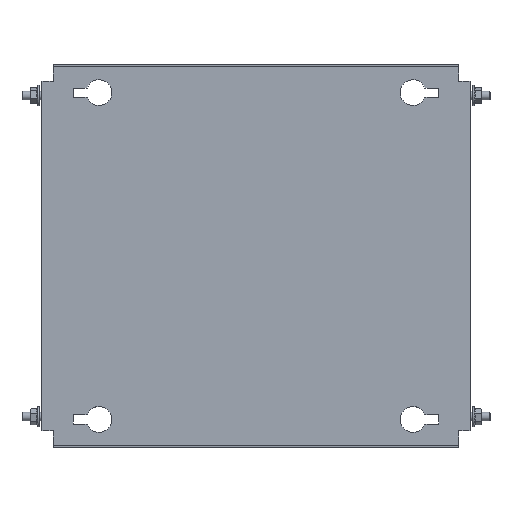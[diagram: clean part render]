
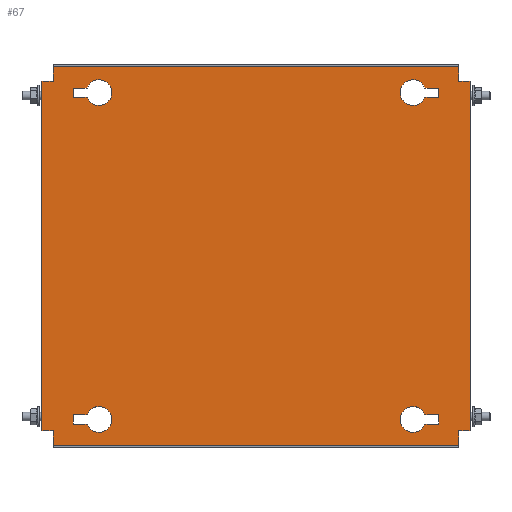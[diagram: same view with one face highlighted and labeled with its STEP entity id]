
A CAD part, top view. The second image highlights one B-rep face of the part: STEP entity #67.
In plain terms, the highlighted planar face has unit normal (0, 0, 1).
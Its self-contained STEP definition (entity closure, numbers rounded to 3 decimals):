
#67 = ADVANCED_FACE('',(#68,#103,#138,#300,#335),#370,.T.);
#68 = FACE_BOUND('',#69,.T.);
#69 = EDGE_LOOP('',(#70,#80,#88,#96));
#70 = ORIENTED_EDGE('',*,*,#71,.T.);
#71 = EDGE_CURVE('',#72,#74,#76,.T.);
#72 = VERTEX_POINT('',#73);
#73 = CARTESIAN_POINT('',(118.393,117.75,2.));
#74 = VERTEX_POINT('',#75);
#75 = CARTESIAN_POINT('',(128.,117.75,2.));
#76 = LINE('',#77,#78);
#77 = CARTESIAN_POINT('',(127.,117.75,2.));
#78 = VECTOR('',#79,1.);
#79 = DIRECTION('',(1.,0.,0.));
#80 = ORIENTED_EDGE('',*,*,#81,.T.);
#81 = EDGE_CURVE('',#74,#82,#84,.T.);
#82 = VERTEX_POINT('',#83);
#83 = CARTESIAN_POINT('',(128.,111.25,2.));
#84 = LINE('',#85,#86);
#85 = CARTESIAN_POINT('',(128.,117.75,2.));
#86 = VECTOR('',#87,1.);
#87 = DIRECTION('',(0.,-1.,0.));
#88 = ORIENTED_EDGE('',*,*,#89,.T.);
#89 = EDGE_CURVE('',#82,#90,#92,.T.);
#90 = VERTEX_POINT('',#91);
#91 = CARTESIAN_POINT('',(118.393,111.25,2.));
#92 = LINE('',#93,#94);
#93 = CARTESIAN_POINT('',(127.,111.25,2.));
#94 = VECTOR('',#95,1.);
#95 = DIRECTION('',(-1.,0.,0.));
#96 = ORIENTED_EDGE('',*,*,#97,.T.);
#97 = EDGE_CURVE('',#90,#72,#98,.T.);
#98 = CIRCLE('',#99,9.);
#99 = AXIS2_PLACEMENT_3D('',#100,#101,#102);
#100 = CARTESIAN_POINT('',(110.,114.5,2.));
#101 = DIRECTION('',(0.,0.,-1.));
#102 = DIRECTION('',(1.,0.,0.));
#103 = FACE_BOUND('',#104,.T.);
#104 = EDGE_LOOP('',(#105,#115,#123,#131));
#105 = ORIENTED_EDGE('',*,*,#106,.T.);
#106 = EDGE_CURVE('',#107,#109,#111,.T.);
#107 = VERTEX_POINT('',#108);
#108 = CARTESIAN_POINT('',(-118.393,-117.75,2.));
#109 = VERTEX_POINT('',#110);
#110 = CARTESIAN_POINT('',(-128.,-117.75,2.));
#111 = LINE('',#112,#113);
#112 = CARTESIAN_POINT('',(-127.,-117.75,2.));
#113 = VECTOR('',#114,1.);
#114 = DIRECTION('',(-1.,0.,0.));
#115 = ORIENTED_EDGE('',*,*,#116,.T.);
#116 = EDGE_CURVE('',#109,#117,#119,.T.);
#117 = VERTEX_POINT('',#118);
#118 = CARTESIAN_POINT('',(-128.,-111.25,2.));
#119 = LINE('',#120,#121);
#120 = CARTESIAN_POINT('',(-128.,-117.75,2.));
#121 = VECTOR('',#122,1.);
#122 = DIRECTION('',(0.,1.,0.));
#123 = ORIENTED_EDGE('',*,*,#124,.T.);
#124 = EDGE_CURVE('',#117,#125,#127,.T.);
#125 = VERTEX_POINT('',#126);
#126 = CARTESIAN_POINT('',(-118.393,-111.25,2.));
#127 = LINE('',#128,#129);
#128 = CARTESIAN_POINT('',(-127.,-111.25,2.));
#129 = VECTOR('',#130,1.);
#130 = DIRECTION('',(1.,-0.,-0.));
#131 = ORIENTED_EDGE('',*,*,#132,.T.);
#132 = EDGE_CURVE('',#125,#107,#133,.T.);
#133 = CIRCLE('',#134,9.);
#134 = AXIS2_PLACEMENT_3D('',#135,#136,#137);
#135 = CARTESIAN_POINT('',(-110.,-114.5,2.));
#136 = DIRECTION('',(0.,0.,-1.));
#137 = DIRECTION('',(-1.,0.,0.));
#138 = FACE_BOUND('',#139,.T.);
#139 = EDGE_LOOP('',(#140,#150,#158,#166,#174,#182,#190,#198,#206,#214,
    #222,#230,#238,#246,#254,#262,#270,#278,#286,#294));
#140 = ORIENTED_EDGE('',*,*,#141,.F.);
#141 = EDGE_CURVE('',#142,#144,#146,.T.);
#142 = VERTEX_POINT('',#143);
#143 = CARTESIAN_POINT('',(-147.4,122.5,2.));
#144 = VERTEX_POINT('',#145);
#145 = CARTESIAN_POINT('',(-142.,122.5,2.));
#146 = LINE('',#147,#148);
#147 = CARTESIAN_POINT('',(-148.,122.5,2.));
#148 = VECTOR('',#149,1.);
#149 = DIRECTION('',(1.,0.,-0.));
#150 = ORIENTED_EDGE('',*,*,#151,.T.);
#151 = EDGE_CURVE('',#142,#152,#154,.T.);
#152 = VERTEX_POINT('',#153);
#153 = CARTESIAN_POINT('',(-150.,122.5,2.));
#154 = LINE('',#155,#156);
#155 = CARTESIAN_POINT('',(-147.4,122.5,2.));
#156 = VECTOR('',#157,1.);
#157 = DIRECTION('',(-1.,0.,0.));
#158 = ORIENTED_EDGE('',*,*,#159,.F.);
#159 = EDGE_CURVE('',#160,#152,#162,.T.);
#160 = VERTEX_POINT('',#161);
#161 = CARTESIAN_POINT('',(-150.,-122.5,2.));
#162 = LINE('',#163,#164);
#163 = CARTESIAN_POINT('',(-150.,-132.5,2.));
#164 = VECTOR('',#165,1.);
#165 = DIRECTION('',(0.,1.,-0.));
#166 = ORIENTED_EDGE('',*,*,#167,.F.);
#167 = EDGE_CURVE('',#168,#160,#170,.T.);
#168 = VERTEX_POINT('',#169);
#169 = CARTESIAN_POINT('',(-147.4,-122.5,2.));
#170 = LINE('',#171,#172);
#171 = CARTESIAN_POINT('',(-142.,-122.5,2.));
#172 = VECTOR('',#173,1.);
#173 = DIRECTION('',(-1.,-0.,-0.));
#174 = ORIENTED_EDGE('',*,*,#175,.T.);
#175 = EDGE_CURVE('',#168,#176,#178,.T.);
#176 = VERTEX_POINT('',#177);
#177 = CARTESIAN_POINT('',(-142.,-122.5,2.));
#178 = LINE('',#179,#180);
#179 = CARTESIAN_POINT('',(-148.,-122.5,2.));
#180 = VECTOR('',#181,1.);
#181 = DIRECTION('',(1.,0.,-0.));
#182 = ORIENTED_EDGE('',*,*,#183,.T.);
#183 = EDGE_CURVE('',#176,#184,#186,.T.);
#184 = VERTEX_POINT('',#185);
#185 = CARTESIAN_POINT('',(-142.,-131.9,2.));
#186 = LINE('',#187,#188);
#187 = CARTESIAN_POINT('',(-142.,132.5,2.));
#188 = VECTOR('',#189,1.);
#189 = DIRECTION('',(0.,-1.,0.));
#190 = ORIENTED_EDGE('',*,*,#191,.T.);
#191 = EDGE_CURVE('',#184,#192,#194,.T.);
#192 = VERTEX_POINT('',#193);
#193 = CARTESIAN_POINT('',(-142.,-132.5,2.));
#194 = LINE('',#195,#196);
#195 = CARTESIAN_POINT('',(-142.,-131.9,2.));
#196 = VECTOR('',#197,1.);
#197 = DIRECTION('',(-0.,-1.,-0.));
#198 = ORIENTED_EDGE('',*,*,#199,.T.);
#199 = EDGE_CURVE('',#192,#200,#202,.T.);
#200 = VERTEX_POINT('',#201);
#201 = CARTESIAN_POINT('',(142.,-132.5,2.));
#202 = LINE('',#203,#204);
#203 = CARTESIAN_POINT('',(142.,-132.5,2.));
#204 = VECTOR('',#205,1.);
#205 = DIRECTION('',(1.,0.,0.));
#206 = ORIENTED_EDGE('',*,*,#207,.F.);
#207 = EDGE_CURVE('',#208,#200,#210,.T.);
#208 = VERTEX_POINT('',#209);
#209 = CARTESIAN_POINT('',(142.,-131.9,2.));
#210 = LINE('',#211,#212);
#211 = CARTESIAN_POINT('',(142.,-132.5,2.));
#212 = VECTOR('',#213,1.);
#213 = DIRECTION('',(0.,-1.,0.));
#214 = ORIENTED_EDGE('',*,*,#215,.T.);
#215 = EDGE_CURVE('',#208,#216,#218,.T.);
#216 = VERTEX_POINT('',#217);
#217 = CARTESIAN_POINT('',(142.,-122.5,2.));
#218 = LINE('',#219,#220);
#219 = CARTESIAN_POINT('',(142.,132.5,2.));
#220 = VECTOR('',#221,1.);
#221 = DIRECTION('',(0.,1.,-0.));
#222 = ORIENTED_EDGE('',*,*,#223,.F.);
#223 = EDGE_CURVE('',#224,#216,#226,.T.);
#224 = VERTEX_POINT('',#225);
#225 = CARTESIAN_POINT('',(147.4,-122.5,2.));
#226 = LINE('',#227,#228);
#227 = CARTESIAN_POINT('',(148.,-122.5,2.));
#228 = VECTOR('',#229,1.);
#229 = DIRECTION('',(-1.,0.,-0.));
#230 = ORIENTED_EDGE('',*,*,#231,.T.);
#231 = EDGE_CURVE('',#224,#232,#234,.T.);
#232 = VERTEX_POINT('',#233);
#233 = CARTESIAN_POINT('',(150.,-122.5,2.));
#234 = LINE('',#235,#236);
#235 = CARTESIAN_POINT('',(147.4,-122.5,2.));
#236 = VECTOR('',#237,1.);
#237 = DIRECTION('',(1.,0.,0.));
#238 = ORIENTED_EDGE('',*,*,#239,.F.);
#239 = EDGE_CURVE('',#240,#232,#242,.T.);
#240 = VERTEX_POINT('',#241);
#241 = CARTESIAN_POINT('',(150.,122.5,2.));
#242 = LINE('',#243,#244);
#243 = CARTESIAN_POINT('',(150.,-132.5,2.));
#244 = VECTOR('',#245,1.);
#245 = DIRECTION('',(0.,-1.,-0.));
#246 = ORIENTED_EDGE('',*,*,#247,.F.);
#247 = EDGE_CURVE('',#248,#240,#250,.T.);
#248 = VERTEX_POINT('',#249);
#249 = CARTESIAN_POINT('',(147.4,122.5,2.));
#250 = LINE('',#251,#252);
#251 = CARTESIAN_POINT('',(-142.,122.5,2.));
#252 = VECTOR('',#253,1.);
#253 = DIRECTION('',(1.,-0.,-0.));
#254 = ORIENTED_EDGE('',*,*,#255,.T.);
#255 = EDGE_CURVE('',#248,#256,#258,.T.);
#256 = VERTEX_POINT('',#257);
#257 = CARTESIAN_POINT('',(142.,122.5,2.));
#258 = LINE('',#259,#260);
#259 = CARTESIAN_POINT('',(148.,122.5,2.));
#260 = VECTOR('',#261,1.);
#261 = DIRECTION('',(-1.,0.,-0.));
#262 = ORIENTED_EDGE('',*,*,#263,.T.);
#263 = EDGE_CURVE('',#256,#264,#266,.T.);
#264 = VERTEX_POINT('',#265);
#265 = CARTESIAN_POINT('',(142.,131.9,2.));
#266 = LINE('',#267,#268);
#267 = CARTESIAN_POINT('',(142.,132.5,2.));
#268 = VECTOR('',#269,1.);
#269 = DIRECTION('',(0.,1.,-0.));
#270 = ORIENTED_EDGE('',*,*,#271,.T.);
#271 = EDGE_CURVE('',#264,#272,#274,.T.);
#272 = VERTEX_POINT('',#273);
#273 = CARTESIAN_POINT('',(142.,132.5,2.));
#274 = LINE('',#275,#276);
#275 = CARTESIAN_POINT('',(142.,131.9,2.));
#276 = VECTOR('',#277,1.);
#277 = DIRECTION('',(-0.,1.,-0.));
#278 = ORIENTED_EDGE('',*,*,#279,.T.);
#279 = EDGE_CURVE('',#272,#280,#282,.T.);
#280 = VERTEX_POINT('',#281);
#281 = CARTESIAN_POINT('',(-142.,132.5,2.));
#282 = LINE('',#283,#284);
#283 = CARTESIAN_POINT('',(-142.,132.5,2.));
#284 = VECTOR('',#285,1.);
#285 = DIRECTION('',(-1.,0.,0.));
#286 = ORIENTED_EDGE('',*,*,#287,.F.);
#287 = EDGE_CURVE('',#288,#280,#290,.T.);
#288 = VERTEX_POINT('',#289);
#289 = CARTESIAN_POINT('',(-142.,131.9,2.));
#290 = LINE('',#291,#292);
#291 = CARTESIAN_POINT('',(-142.,-132.5,2.));
#292 = VECTOR('',#293,1.);
#293 = DIRECTION('',(0.,1.,-0.));
#294 = ORIENTED_EDGE('',*,*,#295,.T.);
#295 = EDGE_CURVE('',#288,#144,#296,.T.);
#296 = LINE('',#297,#298);
#297 = CARTESIAN_POINT('',(-142.,132.5,2.));
#298 = VECTOR('',#299,1.);
#299 = DIRECTION('',(0.,-1.,0.));
#300 = FACE_BOUND('',#301,.T.);
#301 = EDGE_LOOP('',(#302,#312,#320,#328));
#302 = ORIENTED_EDGE('',*,*,#303,.F.);
#303 = EDGE_CURVE('',#304,#306,#308,.T.);
#304 = VERTEX_POINT('',#305);
#305 = CARTESIAN_POINT('',(128.,-111.25,2.));
#306 = VERTEX_POINT('',#307);
#307 = CARTESIAN_POINT('',(118.393,-111.25,2.));
#308 = LINE('',#309,#310);
#309 = CARTESIAN_POINT('',(118.393,-111.25,2.));
#310 = VECTOR('',#311,1.);
#311 = DIRECTION('',(-1.,0.,0.));
#312 = ORIENTED_EDGE('',*,*,#313,.F.);
#313 = EDGE_CURVE('',#314,#304,#316,.T.);
#314 = VERTEX_POINT('',#315);
#315 = CARTESIAN_POINT('',(128.,-117.75,2.));
#316 = LINE('',#317,#318);
#317 = CARTESIAN_POINT('',(128.,-111.25,2.));
#318 = VECTOR('',#319,1.);
#319 = DIRECTION('',(0.,1.,0.));
#320 = ORIENTED_EDGE('',*,*,#321,.F.);
#321 = EDGE_CURVE('',#322,#314,#324,.T.);
#322 = VERTEX_POINT('',#323);
#323 = CARTESIAN_POINT('',(118.393,-117.75,2.));
#324 = LINE('',#325,#326);
#325 = CARTESIAN_POINT('',(127.,-117.75,2.));
#326 = VECTOR('',#327,1.);
#327 = DIRECTION('',(1.,0.,0.));
#328 = ORIENTED_EDGE('',*,*,#329,.F.);
#329 = EDGE_CURVE('',#306,#322,#330,.T.);
#330 = CIRCLE('',#331,9.);
#331 = AXIS2_PLACEMENT_3D('',#332,#333,#334);
#332 = CARTESIAN_POINT('',(110.,-114.5,2.));
#333 = DIRECTION('',(0.,-0.,1.));
#334 = DIRECTION('',(1.,0.,0.));
#335 = FACE_BOUND('',#336,.T.);
#336 = EDGE_LOOP('',(#337,#347,#355,#363));
#337 = ORIENTED_EDGE('',*,*,#338,.F.);
#338 = EDGE_CURVE('',#339,#341,#343,.T.);
#339 = VERTEX_POINT('',#340);
#340 = CARTESIAN_POINT('',(-128.,111.25,2.));
#341 = VERTEX_POINT('',#342);
#342 = CARTESIAN_POINT('',(-118.393,111.25,2.));
#343 = LINE('',#344,#345);
#344 = CARTESIAN_POINT('',(-118.393,111.25,2.));
#345 = VECTOR('',#346,1.);
#346 = DIRECTION('',(1.,0.,0.));
#347 = ORIENTED_EDGE('',*,*,#348,.F.);
#348 = EDGE_CURVE('',#349,#339,#351,.T.);
#349 = VERTEX_POINT('',#350);
#350 = CARTESIAN_POINT('',(-128.,117.75,2.));
#351 = LINE('',#352,#353);
#352 = CARTESIAN_POINT('',(-128.,111.25,2.));
#353 = VECTOR('',#354,1.);
#354 = DIRECTION('',(0.,-1.,0.));
#355 = ORIENTED_EDGE('',*,*,#356,.F.);
#356 = EDGE_CURVE('',#357,#349,#359,.T.);
#357 = VERTEX_POINT('',#358);
#358 = CARTESIAN_POINT('',(-118.393,117.75,2.));
#359 = LINE('',#360,#361);
#360 = CARTESIAN_POINT('',(-127.,117.75,2.));
#361 = VECTOR('',#362,1.);
#362 = DIRECTION('',(-1.,0.,0.));
#363 = ORIENTED_EDGE('',*,*,#364,.F.);
#364 = EDGE_CURVE('',#341,#357,#365,.T.);
#365 = CIRCLE('',#366,9.);
#366 = AXIS2_PLACEMENT_3D('',#367,#368,#369);
#367 = CARTESIAN_POINT('',(-110.,114.5,2.));
#368 = DIRECTION('',(0.,-0.,1.));
#369 = DIRECTION('',(-1.,0.,0.));
#370 = PLANE('',#371);
#371 = AXIS2_PLACEMENT_3D('',#372,#373,#374);
#372 = CARTESIAN_POINT('',(-142.,-132.5,2.));
#373 = DIRECTION('',(-0.,0.,1.));
#374 = DIRECTION('',(1.,0.,0.));
